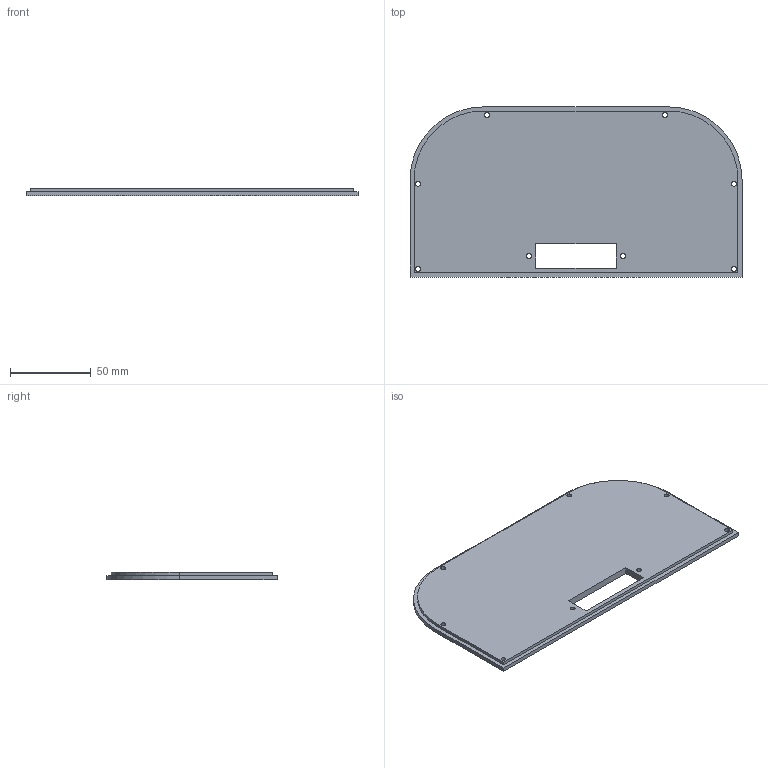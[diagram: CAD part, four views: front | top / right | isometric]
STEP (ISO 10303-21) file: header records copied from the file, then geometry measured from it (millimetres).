
FILE_DESCRIPTION(/* description */ (''),/* implementation_level */ '2;1');
FILE_NAME(/* name */ 'iradio back.step',/* time_stamp */ '2024-03-17T21:39:24-04:00',/* author */ (''),/* organization */ (''),/* preprocessor_version */ 'ST-DEVELOPER v20',/* originating_system */ 'Autodesk Translation Framework v12.20.1.177',/* authorisation */ '');
FILE_SCHEMA (('AUTOMOTIVE_DESIGN { 1 0 10303 214 3 1 1 }'));
Products named in the file (3): Internet Radio (V2); ZombieBack-1; ZombieBack-2
Assembly tree (2 placements, depth 2):
  Internet Radio (V2)
    ZombieBack-1
    ZombieBack-2
Bounding box: 205 x 105 x 4.4 mm (x, y, z)
Volume: 84584.9 mm3; surface area: 48679.3 mm2
Topology: 75 solids, 75 shells, 2625 faces, 7182 edges, 4788 vertices
Faces by surface type: bspline 1762, plane 851, cylinder 12
Full cylindrical faces by diameter (mm): 3 x8
Entity records: 84936 total; most frequent: CARTESIAN_POINT 30458, ORIENTED_EDGE 14364, EDGE_CURVE 7182, DIRECTION 5418, VERTEX_POINT 4788, LINE 3634, VECTOR 3634, B_SPLINE_CURVE_WITH_KNOTS 3524
